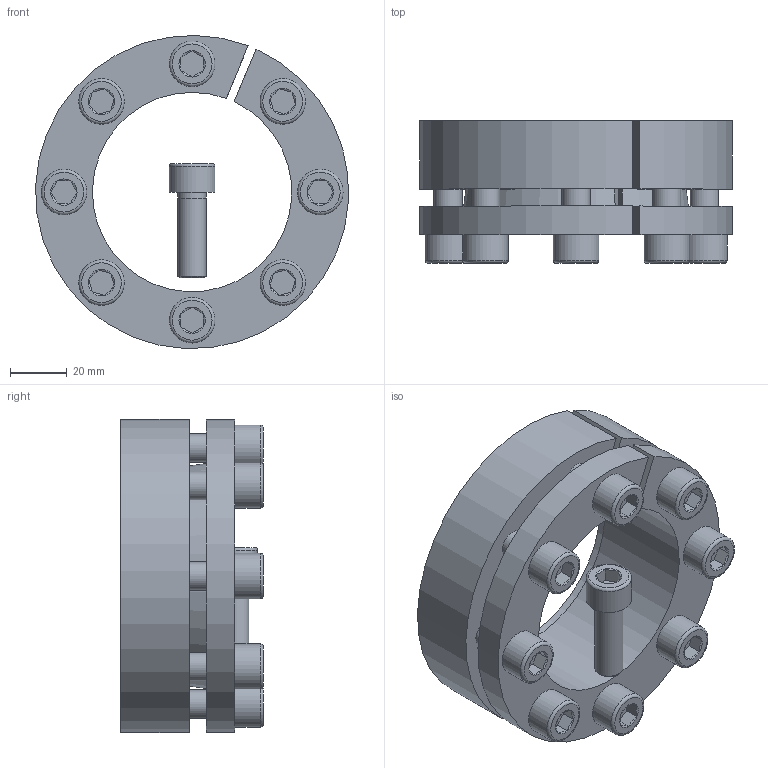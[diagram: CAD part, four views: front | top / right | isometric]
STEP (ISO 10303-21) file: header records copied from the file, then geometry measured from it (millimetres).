
FILE_DESCRIPTION( ( 'Unknown' ), '1' );
FILE_NAME( 'C:/Dokumente und Einstellungen/Sven/Desktop/homepage/cad - homepage/KBS13/KBS 13 - 70 x 110.stp', 'Unknown', ( 'Unknown' ), ( 'Unknown' ), 'XStep 1.0', 'Unknown', ' ' );
FILE_SCHEMA( ( 'automotive_design' ) );
Length unit declared in the file: millimetre
Products named in the file (3): Assem1; KBS 13 - 70 x 110; ISO EN DIN 4762 M10x30
Bounding box: 109.87 x 50 x 109.93 mm (x, y, z)
Volume: 384776.7 mm3; surface area: 117454.9 mm2
Topology: 11 solids, 11 shells, 281 faces, 573 edges, 350 vertices
Faces by surface type: plane 122, cylinder 74, cone 67, torus 18
Full cylindrical faces by diameter (mm): 9 x9, 10 x50, 16 x9
Entity records: 1774 total; most frequent: CARTESIAN_POINT 293, DIRECTION 272, ORIENTED_EDGE 194, AXIS2_PLACEMENT_3D 122, EDGE_LOOP 112, EDGE_CURVE 97, FACE_OUTER_BOUND 75, VERTEX_POINT 75
